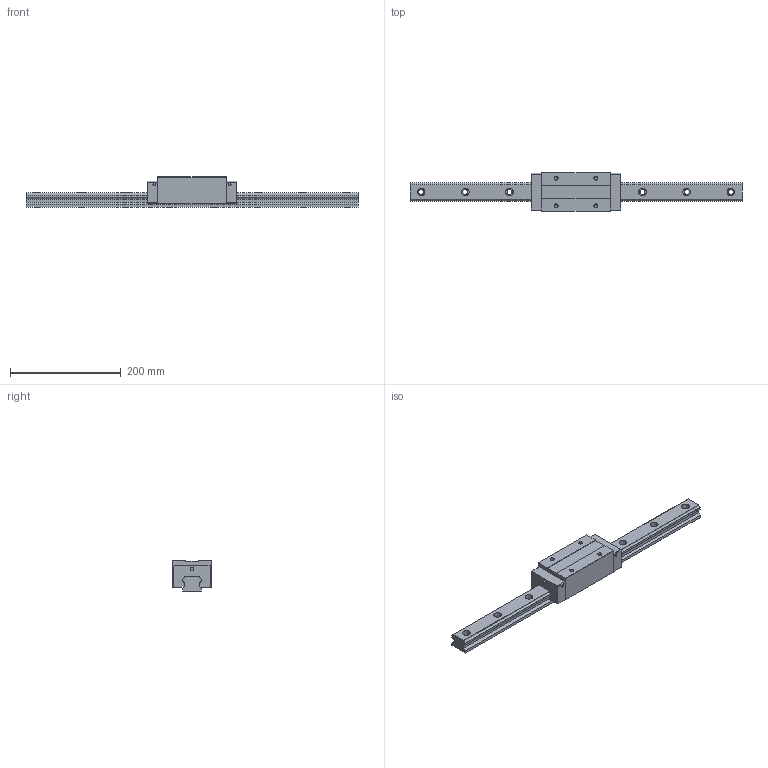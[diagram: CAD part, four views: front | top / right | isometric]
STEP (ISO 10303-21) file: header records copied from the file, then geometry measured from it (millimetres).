
FILE_DESCRIPTION (( 'STEP AP203' ), '1' );
FILE_NAME ('TRH35VE-ZN.STEP', '2024-05-20T07:49:05', ( '' ), ( '' ), 'SwSTEP 2.0', 'SolidWorks 2022', '' );
FILE_SCHEMA (( 'CONFIG_CONTROL_DESIGN' ));
Length unit declared in the file: millimetre
Products named in the file (1): TRH35VE-ZN
Bounding box: 600 x 70 x 55 mm (x, y, z)
Volume: 868696.8 mm3; surface area: 133603.1 mm2
Topology: 2 solids, 2 shells, 186 faces, 488 edges, 316 vertices
Faces by surface type: cylinder 88, plane 82, cone 16
Entity records: 5819 total; most frequent: DIRECTION 1038, CARTESIAN_POINT 983, ORIENTED_EDGE 960, EDGE_CURVE 480, AXIS2_PLACEMENT_3D 371, VERTEX_POINT 316, LINE 296, VECTOR 296
